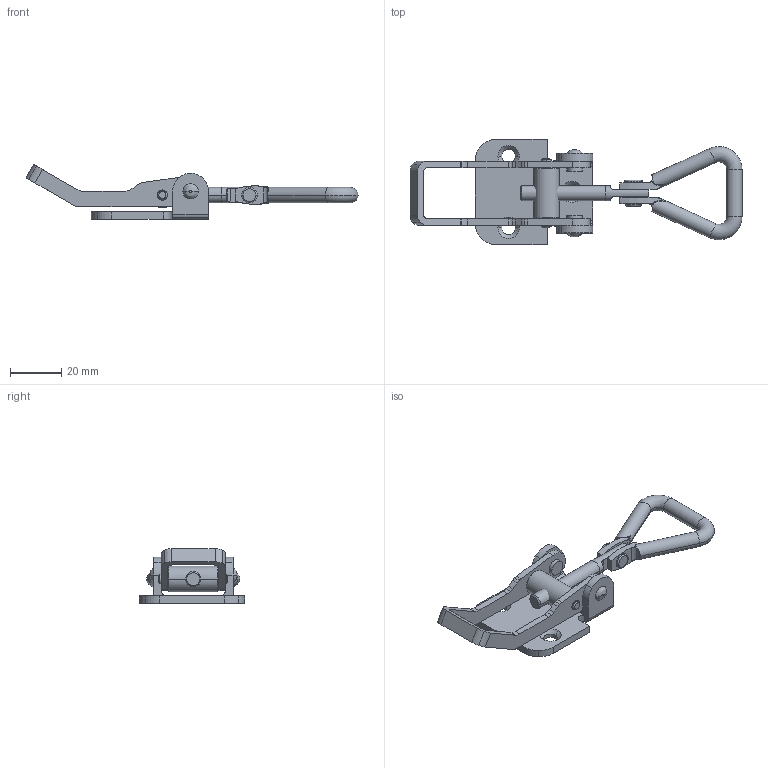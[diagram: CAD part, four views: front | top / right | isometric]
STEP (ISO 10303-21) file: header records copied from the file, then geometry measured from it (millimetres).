
FILE_DESCRIPTION((''),'2;1');
FILE_NAME('3019.04.stp','2017-10-04T09:15:47',(''),(''),'Mechanical Desktop 2006','Mechanical Desktop 2006',', , ');
FILE_SCHEMA(('AUTOMOTIVE_DESIGN { 1 2 10303 214 0 1 1 1 }'));
Length unit declared in the file: millimetre
Products named in the file (8): 3019._; ~~BÜGEL; ~~~TEIL1; ~~TEIL2; ~HANDBETETIGUNG; ~BOLZEN M6; ~NITTE; GRUNDPL.3019
Assembly tree (8 placements, depth 2):
  3019._
    ~~BÜGEL
    ~~~TEIL1
    ~~TEIL2
    ~HANDBETETIGUNG
    ~BOLZEN M6
    ~NITTE  x2
    GRUNDPL.3019
Bounding box: 129.4 x 41 x 21.41 mm (x, y, z)
Volume: 14706.9 mm3; surface area: 12789.6 mm2
Topology: 8 solids, 8 shells, 216 faces, 564 edges, 365 vertices
Faces by surface type: cylinder 114, plane 62, cone 16, bspline 16, torus 8
Entity records: 9916 total; most frequent: CARTESIAN_POINT 4325, DIRECTION 1114, ORIENTED_EDGE 1082, EDGE_CURVE 541, AXIS2_PLACEMENT_3D 445, VERTEX_POINT 353, EDGE_LOOP 236, CIRCLE 228
